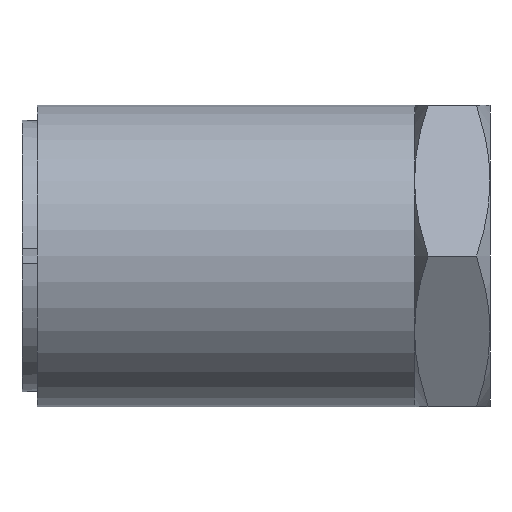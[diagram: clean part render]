
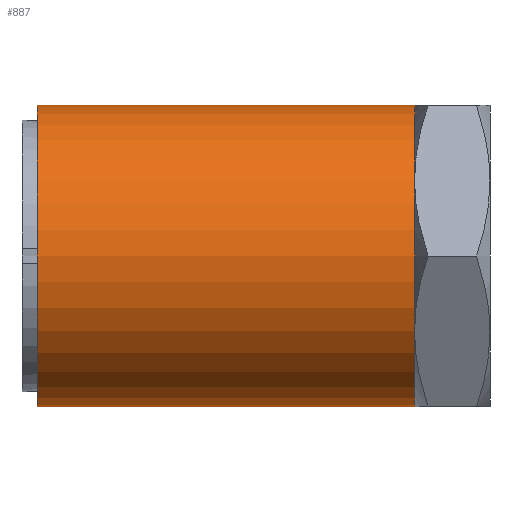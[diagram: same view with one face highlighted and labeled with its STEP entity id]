
A CAD part, front view. The second image highlights one B-rep face of the part: STEP entity #887.
In plain terms, the highlighted cylindrical face has radius 5 mm (diameter 10 mm), a partial arc.
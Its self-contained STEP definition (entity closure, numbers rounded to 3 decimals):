
#24 = AXIS2_PLACEMENT_3D ( 'NONE', #501, #494, #493 ) ;
#37 = EDGE_CURVE ( 'NONE', #642, #639, #1210, .T. ) ;
#41 = EDGE_CURVE ( 'NONE', #643, #642, #1290, .T. ) ;
#49 = AXIS2_PLACEMENT_3D ( 'NONE', #551, #549, #548 ) ;
#72 = EDGE_CURVE ( 'NONE', #630, #636, #1223, .T. ) ;
#84 = AXIS2_PLACEMENT_3D ( 'NONE', #328, #740, #736 ) ;
#88 = EDGE_CURVE ( 'NONE', #636, #639, #1120, .T. ) ;
#97 = AXIS2_PLACEMENT_3D ( 'NONE', #475, #473, #472 ) ;
#106 = EDGE_CURVE ( 'NONE', #630, #640, #934, .T. ) ;
#146 = EDGE_CURVE ( 'NONE', #640, #643, #1262, .T. ) ;
#214 = CARTESIAN_POINT ( 'NONE',  ( 0., 0., 0. ) ) ;
#219 = DIRECTION ( 'NONE',  ( -1., 0., 0. ) ) ;
#250 = DIRECTION ( 'NONE',  ( 0., 0., 1. ) ) ;
#286 = CARTESIAN_POINT ( 'NONE',  ( 0., 0., 5. ) ) ;
#290 = CARTESIAN_POINT ( 'NONE',  ( 12.5, 0., -5. ) ) ;
#293 = CARTESIAN_POINT ( 'NONE',  ( 12.5, -4.33, 2.5 ) ) ;
#295 = CARTESIAN_POINT ( 'NONE',  ( 12.5, 0., 5. ) ) ;
#297 = CARTESIAN_POINT ( 'NONE',  ( 12.5, -4.33, -2.5 ) ) ;
#299 = CARTESIAN_POINT ( 'NONE',  ( 0., 0., -5. ) ) ;
#328 = CARTESIAN_POINT ( 'NONE',  ( 12.5, 0., 0. ) ) ;
#472 = DIRECTION ( 'NONE',  ( 0., 0., 1. ) ) ;
#473 = DIRECTION ( 'NONE',  ( -1., 0., 0. ) ) ;
#475 = CARTESIAN_POINT ( 'NONE',  ( 12.5, 0., 0. ) ) ;
#493 = DIRECTION ( 'NONE',  ( 0., 0., 1. ) ) ;
#494 = DIRECTION ( 'NONE',  ( -1., 0., 0. ) ) ;
#501 = CARTESIAN_POINT ( 'NONE',  ( 0., 0., 0. ) ) ;
#508 = DIRECTION ( 'NONE',  ( -1., 0., 0. ) ) ;
#509 = CARTESIAN_POINT ( 'NONE',  ( 0., 0., -5. ) ) ;
#548 = DIRECTION ( 'NONE',  ( 0., 0., 1. ) ) ;
#549 = DIRECTION ( 'NONE',  ( -1., 0., 0. ) ) ;
#551 = CARTESIAN_POINT ( 'NONE',  ( 12.5, 0., 0. ) ) ;
#555 = DIRECTION ( 'NONE',  ( -1., 0., 0. ) ) ;
#562 = CARTESIAN_POINT ( 'NONE',  ( 0., 0., 5. ) ) ;
#630 = VERTEX_POINT ( 'NONE', #290 ) ;
#636 = VERTEX_POINT ( 'NONE', #299 ) ;
#639 = VERTEX_POINT ( 'NONE', #286 ) ;
#640 = VERTEX_POINT ( 'NONE', #297 ) ;
#642 = VERTEX_POINT ( 'NONE', #295 ) ;
#643 = VERTEX_POINT ( 'NONE', #293 ) ;
#736 = DIRECTION ( 'NONE',  ( 0., 0., 1. ) ) ;
#740 = DIRECTION ( 'NONE',  ( -1., 0., 0. ) ) ;
#887 = ADVANCED_FACE ( 'NONE', ( #1168 ), #926, .T. ) ;
#895 = ORIENTED_EDGE ( 'NONE', *, *, #41, .T. ) ;
#896 = ORIENTED_EDGE ( 'NONE', *, *, #37, .T. ) ;
#898 = ORIENTED_EDGE ( 'NONE', *, *, #88, .F. ) ;
#909 = ORIENTED_EDGE ( 'NONE', *, *, #72, .F. ) ;
#926 = CYLINDRICAL_SURFACE ( 'NONE', #1319, 5. ) ;
#934 = CIRCLE ( 'NONE', #97, 5. ) ;
#959 = ORIENTED_EDGE ( 'NONE', *, *, #146, .T. ) ;
#966 = ORIENTED_EDGE ( 'NONE', *, *, #106, .T. ) ;
#977 = VECTOR ( 'NONE', #555, 1000. ) ;
#1033 = VECTOR ( 'NONE', #508, 1000. ) ;
#1055 = EDGE_LOOP ( 'NONE', ( #909, #966, #959, #895, #896, #898 ) ) ;
#1120 = CIRCLE ( 'NONE', #24, 5. ) ;
#1168 = FACE_OUTER_BOUND ( 'NONE', #1055, .T. ) ;
#1210 = LINE ( 'NONE', #562, #977 ) ;
#1223 = LINE ( 'NONE', #509, #1033 ) ;
#1262 = CIRCLE ( 'NONE', #84, 5. ) ;
#1290 = CIRCLE ( 'NONE', #49, 5. ) ;
#1319 = AXIS2_PLACEMENT_3D ( 'NONE', #214, #219, #250 ) ;
